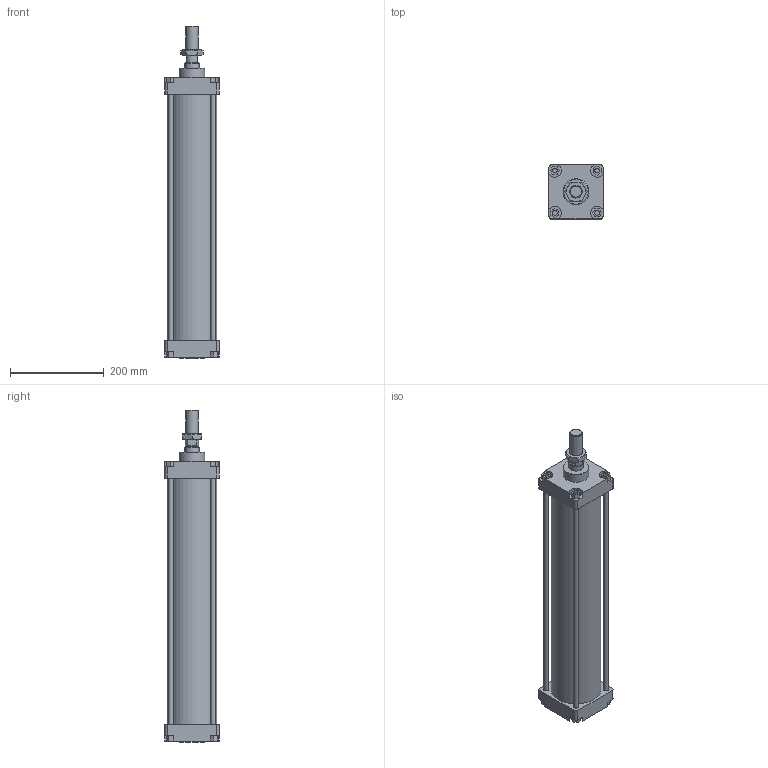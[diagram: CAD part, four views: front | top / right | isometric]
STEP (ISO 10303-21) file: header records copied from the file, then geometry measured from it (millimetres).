
FILE_DESCRIPTION(/* description */ (''),/* implementation_level */ '2;1');
FILE_NAME(/* name */ 'I:\Area Tecnica\Disegni\VARIE-3D\Componenti\CSP\Ø100\130#_100_####_###\1303_100_0450_01A.stp',/* time_stamp */ '2016-11-24T14:05:14+01:00',/* author */ ('Maniean1'),/* organization */ ('Pneumax S.p.A.'),/* preprocessor_version */ 'ST-DEVELOPER v15.2',/* originating_system */ 'Autodesk Inventor 2014',/* authorisation */ '');
FILE_SCHEMA (('AUTOMOTIVE_DESIGN { 1 0 10303 214 3 1 1 }'));
Length unit declared in the file: millimetre
Products named in the file (6): C_130#_100_0450; Testata anteriore_100; Testata posteriore_100; S_1303_100_0450_01A; 1300_100_18F; 1303_100_0450_01A
Bounding box: 115 x 115 x 707 mm (x, y, z)
Volume: 2531157.8 mm3; surface area: 619090.7 mm2
Topology: 9 solids, 9 shells, 162 faces, 380 edges, 249 vertices
Faces by surface type: plane 105, cylinder 42, cone 15
Full cylindrical faces by diameter (mm): 10 x12, 19 x2, 21.8 x1, 24.835 x1, 27 x1, 28 x1, 30 x3, 55 x2, 100 x2, 106 x1
Entity records: 4530 total; most frequent: CARTESIAN_POINT 785, DIRECTION 764, ORIENTED_EDGE 672, EDGE_CURVE 336, AXIS2_PLACEMENT_3D 271, VERTEX_POINT 244, EDGE_LOOP 236, LINE 222
